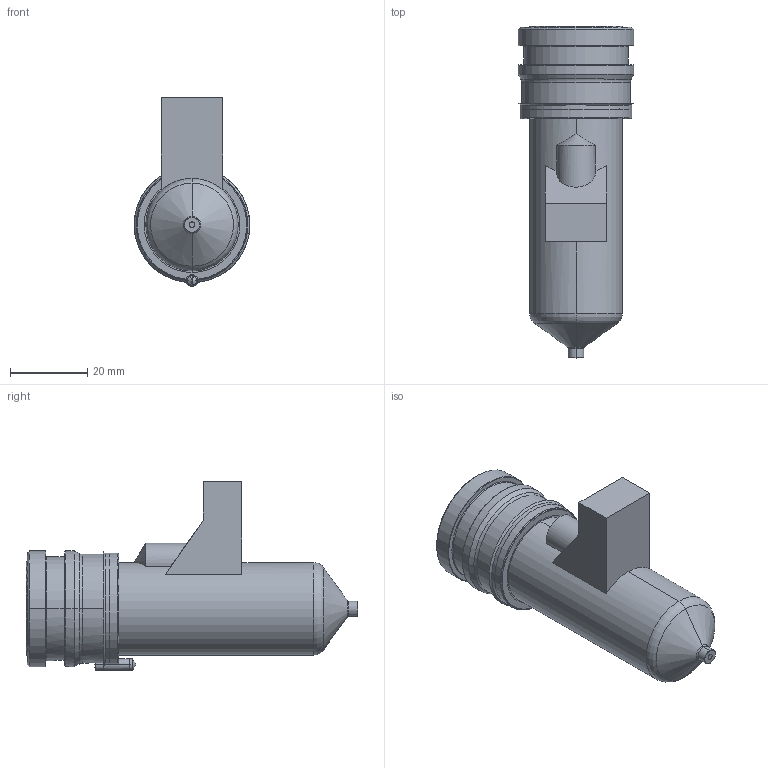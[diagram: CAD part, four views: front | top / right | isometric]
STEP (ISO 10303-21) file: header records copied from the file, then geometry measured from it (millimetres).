
FILE_DESCRIPTION((''),'2;1');
FILE_NAME('MPN-10-29-VP4-066-M','2026-02-05T12:58:22',('UPTIO'),('Thermoplay S.p.A.'),'CREO PARAMETRIC BY PTC INC, 2023494','CREO PARAMETRIC BY PTC INC, 2023494','');
FILE_SCHEMA(('CONFIG_CONTROL_DESIGN','SHAPE_APPEARANCE_LAYERS_GROUPS'));
Length unit declared in the file: millimetre
Products named in the file (1): MPN-10-29-VP4-066-M
Bounding box: 30 x 86.1 x 49 mm (x, y, z)
Volume: 28131.7 mm3; surface area: 29052.1 mm2
Topology: 3 solids, 5 shells, 573 faces, 1479 edges, 911 vertices
Faces by surface type: cylinder 177, plane 159, bspline 92, torus 69, cone 66, sphere 6, extrusion 4
Entity records: 30236 total; most frequent: CARTESIAN_POINT 13830, ORIENTED_EDGE 2944, DIRECTION 2627, EDGE_CURVE 1472, AXIS2_PLACEMENT_3D 1039, VERTEX_POINT 911, EDGE_LOOP 601, FACE_OUTER_BOUND 573
